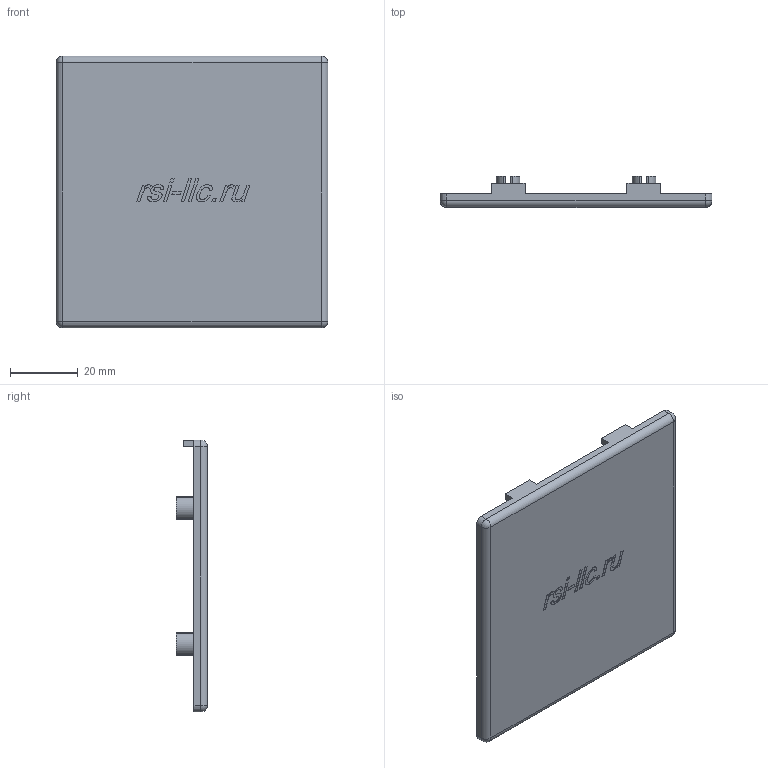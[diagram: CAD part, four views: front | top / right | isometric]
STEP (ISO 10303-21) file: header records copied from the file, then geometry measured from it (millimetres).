
FILE_DESCRIPTION (( 'STEP AP214' ), '1' );
FILE_NAME ('4016.STEP', '2020-10-20T12:49:17', ( '' ), ( '' ), 'SwSTEP 2.0', 'SolidWorks 2018', '' );
FILE_SCHEMA (( 'AUTOMOTIVE_DESIGN' ));
Length unit declared in the file: millimetre
Products named in the file (1): 4016
Bounding box: 80 x 9.3 x 80 mm (x, y, z)
Volume: 14369.9 mm3; surface area: 15442 mm2
Topology: 1 solids, 1 shells, 224 faces, 561 edges, 354 vertices
Faces by surface type: plane 88, cylinder 56, torus 44, bspline 32, sphere 4
Entity records: 9477 total; most frequent: CARTESIAN_POINT 3120, ORIENTED_EDGE 1114, DIRECTION 1083, EDGE_CURVE 557, AXIS2_PLACEMENT_3D 397, VERTEX_POINT 354, VECTOR 289, LINE 289
